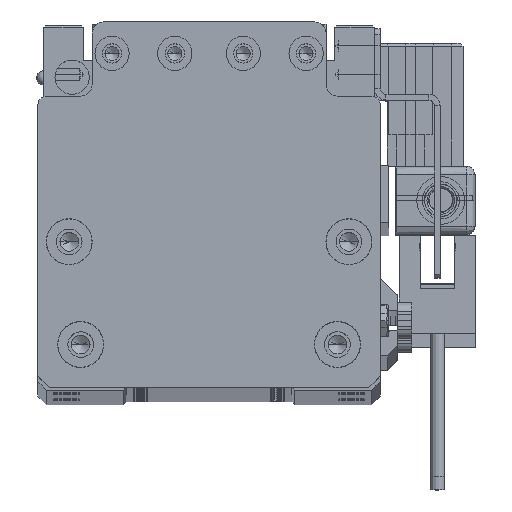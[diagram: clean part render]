
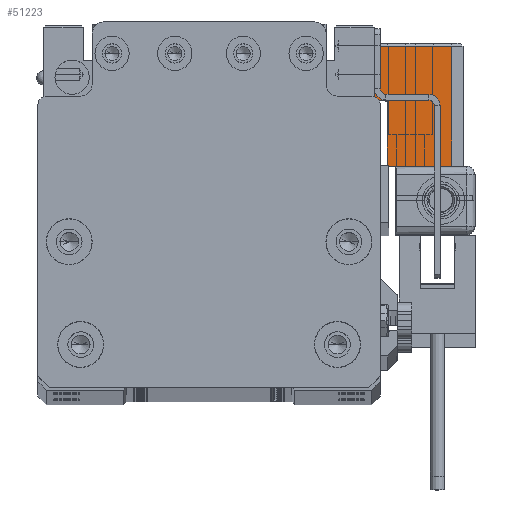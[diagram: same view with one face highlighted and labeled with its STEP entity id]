
A CAD part, top view. The second image highlights one B-rep face of the part: STEP entity #51223.
In plain terms, the highlighted planar face has unit normal (0, 0, 1) as drawn and (-1, 0, 0) by its records, which use the part's own axes.
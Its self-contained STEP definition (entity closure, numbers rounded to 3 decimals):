
#1799 = CARTESIAN_POINT ( 'NONE',  ( -17., -10.75, -13.3 ) ) ;
#1909 = DIRECTION ( 'NONE',  ( 0., 0., 1. ) ) ;
#4614 = CARTESIAN_POINT ( 'NONE',  ( -17., 10.25, -2. ) ) ;
#7804 = LINE ( 'NONE', #12695, #35220 ) ;
#12695 = CARTESIAN_POINT ( 'NONE',  ( -17., -10.75, -15.5 ) ) ;
#16087 = ORIENTED_EDGE ( 'NONE', *, *, #28250, .T. ) ;
#16629 = ORIENTED_EDGE ( 'NONE', *, *, #37632, .T. ) ;
#17156 = DIRECTION ( 'NONE',  ( 0., 0., 1. ) ) ;
#17913 = CARTESIAN_POINT ( 'NONE',  ( -17., 10.75, -2. ) ) ;
#19442 = CARTESIAN_POINT ( 'NONE',  ( -17., 10.25, -15.5 ) ) ;
#22356 = CARTESIAN_POINT ( 'NONE',  ( -17., -10.75, -15.5 ) ) ;
#25929 = VERTEX_POINT ( 'NONE', #35337 ) ;
#27582 = PLANE ( 'NONE',  #35308 ) ;
#28188 = EDGE_CURVE ( 'NONE', #45030, #47363, #49919, .T. ) ;
#28250 = EDGE_CURVE ( 'NONE', #62337, #39237, #38783, .T. ) ;
#29550 = DIRECTION ( 'NONE',  ( 0., 0., -1. ) ) ;
#29850 = ORIENTED_EDGE ( 'NONE', *, *, #54134, .T. ) ;
#32103 = LINE ( 'NONE', #65134, #52791 ) ;
#32265 = EDGE_CURVE ( 'NONE', #39237, #25929, #32103, .T. ) ;
#32709 = CARTESIAN_POINT ( 'NONE',  ( -17., -10.75, -2. ) ) ;
#32821 = FACE_OUTER_BOUND ( 'NONE', #65771, .T. ) ;
#33322 = ORIENTED_EDGE ( 'NONE', *, *, #48326, .T. ) ;
#33459 = DIRECTION ( 'NONE',  ( 0., 0., 1. ) ) ;
#34248 = CARTESIAN_POINT ( 'NONE',  ( -17., -10.75, -15.5 ) ) ;
#35220 = VECTOR ( 'NONE', #1909, 1000. ) ;
#35308 = AXIS2_PLACEMENT_3D ( 'NONE', #22356, #64806, #17156 ) ;
#35337 = CARTESIAN_POINT ( 'NONE',  ( -17., 0.75, -13.3 ) ) ;
#36240 = VERTEX_POINT ( 'NONE', #47651 ) ;
#37632 = EDGE_CURVE ( 'NONE', #47363, #62337, #45510, .T. ) ;
#37842 = VECTOR ( 'NONE', #38957, 1000. ) ;
#38783 = LINE ( 'NONE', #34248, #45827 ) ;
#38957 = DIRECTION ( 'NONE',  ( 0., -1., 0. ) ) ;
#39237 = VERTEX_POINT ( 'NONE', #51403 ) ;
#40545 = VECTOR ( 'NONE', #29550, 1000. ) ;
#45030 = VERTEX_POINT ( 'NONE', #32709 ) ;
#45415 = ORIENTED_EDGE ( 'NONE', *, *, #32265, .T. ) ;
#45510 = LINE ( 'NONE', #19442, #40545 ) ;
#45827 = VECTOR ( 'NONE', #54113, 1000. ) ;
#46920 = VECTOR ( 'NONE', #64910, 1000. ) ;
#47363 = VERTEX_POINT ( 'NONE', #4614 ) ;
#47651 = CARTESIAN_POINT ( 'NONE',  ( -17., -10.75, -13.3 ) ) ;
#48326 = EDGE_CURVE ( 'NONE', #36240, #45030, #7804, .T. ) ;
#49436 = LINE ( 'NONE', #1799, #37842 ) ;
#49919 = LINE ( 'NONE', #17913, #46920 ) ;
#51223 = ADVANCED_FACE ( 'NONE', ( #32821 ), #27582, .T. ) ;
#51403 = CARTESIAN_POINT ( 'NONE',  ( -17., 0.75, -15.5 ) ) ;
#52791 = VECTOR ( 'NONE', #33459, 1000. ) ;
#54113 = DIRECTION ( 'NONE',  ( 0., -1., 0. ) ) ;
#54134 = EDGE_CURVE ( 'NONE', #25929, #36240, #49436, .T. ) ;
#56617 = ORIENTED_EDGE ( 'NONE', *, *, #28188, .T. ) ;
#61584 = CARTESIAN_POINT ( 'NONE',  ( -17., 10.25, -15.5 ) ) ;
#62337 = VERTEX_POINT ( 'NONE', #61584 ) ;
#64806 = DIRECTION ( 'NONE',  ( -1., 0., 0. ) ) ;
#64910 = DIRECTION ( 'NONE',  ( 0., 1., 0. ) ) ;
#65134 = CARTESIAN_POINT ( 'NONE',  ( -17., 0.75, -15.5 ) ) ;
#65771 = EDGE_LOOP ( 'NONE', ( #56617, #16629, #16087, #45415, #29850, #33322 ) ) ;
